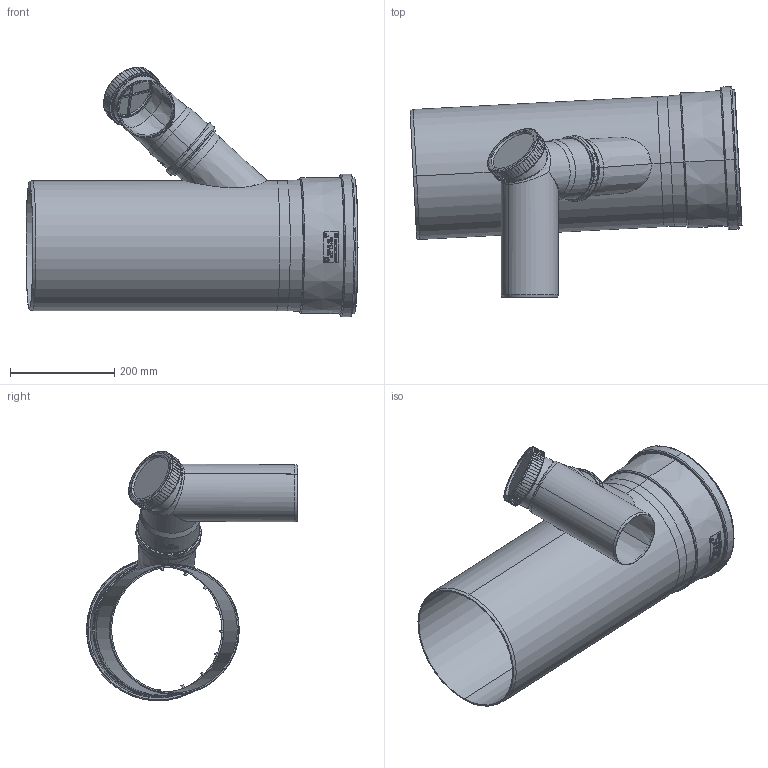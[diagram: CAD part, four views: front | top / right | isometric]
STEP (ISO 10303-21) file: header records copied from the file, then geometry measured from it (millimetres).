
FILE_DESCRIPTION((''),'2;1');
FILE_NAME('20-5500001948_ASM','2022-03-23T12:45:51',('ctgas'),('Centrotherm'),'CREO PARAMETRIC BY PTC INC, 2020281','CREO PARAMETRIC BY PTC INC, 2020281','');
FILE_SCHEMA(('AP242_MANAGED_MODEL_BASED_3D_ENGINEERING_MIM_LF { 1 0 10303 442 1 1 4 }'));
Length unit declared in the file: millimetre
Products named in the file (13): 20-1100007651_AF0; 20-1100001372_0480_AF1; 20-1100008618_0527_AF0_ASM; 20-1100004789_AF1; 20-1100008870_ASM; 34015500; 20-1100008871_ASM; 20-1100000543; 20-0002073000; 20-0034033000; 20-0034013010; 20-1100002662_ASM; 20-5500001948_ASM
Assembly tree (12 placements, depth 5):
  20-5500001948_ASM
    20-1100008871_ASM
      20-1100008870_ASM
        20-1100008618_0527_AF0_ASM
          20-1100007651_AF0
          20-1100001372_0480_AF1
        20-1100004789_AF1
      34015500
    20-1100002662_ASM
      20-1100000543
      20-0002073000
      20-0034033000
      20-0034013010
Bounding box: 637.39 x 405.33 x 479.73 mm (x, y, z)
Volume: 2694595.1 mm3; surface area: 1453007.2 mm2
Topology: 8 solids, 8 shells, 1929 faces, 5103 edges, 3290 vertices
Faces by surface type: plane 1398, cone 226, cylinder 188, torus 72, bspline 34, extrusion 7, sphere 4
Entity records: 68419 total; most frequent: CARTESIAN_POINT 22121, ORIENTED_EDGE 10206, DIRECTION 8426, EDGE_CURVE 5103, VERTEX_POINT 3290, AXIS2_PLACEMENT_3D 3104, VECTOR 2218, LINE 2211
